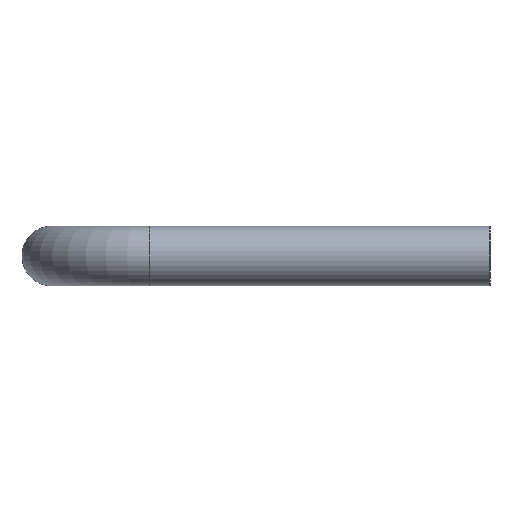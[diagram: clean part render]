
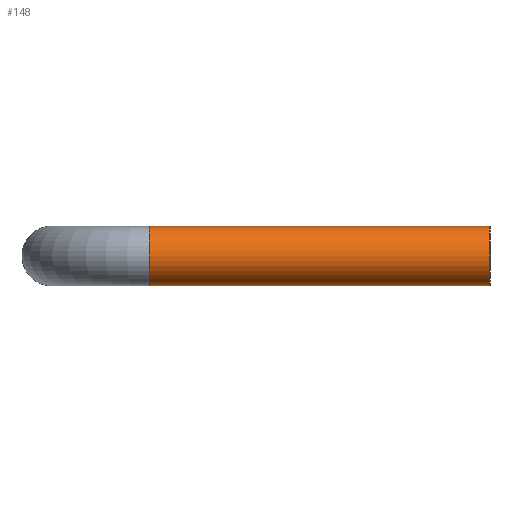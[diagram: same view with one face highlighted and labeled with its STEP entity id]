
A CAD part, left-side view. The second image highlights one B-rep face of the part: STEP entity #148.
In plain terms, the highlighted cylindrical face has radius 8 mm (diameter 16 mm), a full revolution.
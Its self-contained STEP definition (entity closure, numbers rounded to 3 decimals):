
#28=CYLINDRICAL_SURFACE('',#176,8.);
#35=ORIENTED_EDGE('',*,*,#59,.F.);
#36=ORIENTED_EDGE('',*,*,#57,.T.);
#57=EDGE_CURVE('',#69,#69,#83,.T.);
#59=EDGE_CURVE('',#71,#71,#85,.T.);
#69=VERTEX_POINT('',#253);
#71=VERTEX_POINT('',#258);
#83=CIRCLE('',#174,8.);
#85=CIRCLE('',#177,8.);
#97=EDGE_LOOP('',(#35));
#98=EDGE_LOOP('',(#36));
#121=FACE_BOUND('',#97,.T.);
#122=FACE_BOUND('',#98,.T.);
#148=ADVANCED_FACE('',(#121,#122),#28,.T.);
#174=AXIS2_PLACEMENT_3D('',#252,#202,#203);
#176=AXIS2_PLACEMENT_3D('',#256,#206,#207);
#177=AXIS2_PLACEMENT_3D('',#257,#208,#209);
#202=DIRECTION('',(0.,1.,0.));
#203=DIRECTION('',(0.,0.,1.));
#206=DIRECTION('',(0.,1.,0.));
#207=DIRECTION('',(0.,0.,1.));
#208=DIRECTION('',(0.,1.,0.));
#209=DIRECTION('',(0.,0.,1.));
#252=CARTESIAN_POINT('',(-100.,0.,0.));
#253=CARTESIAN_POINT('',(-100.,0.,8.));
#256=CARTESIAN_POINT('',(-100.,91.,0.));
#257=CARTESIAN_POINT('',(-100.,91.,0.));
#258=CARTESIAN_POINT('',(-100.,91.,8.));
